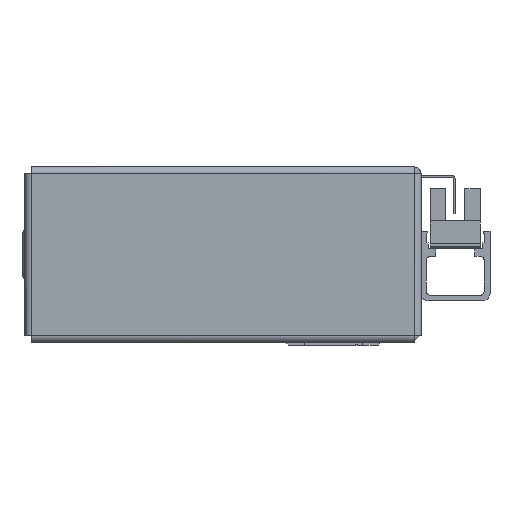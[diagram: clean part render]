
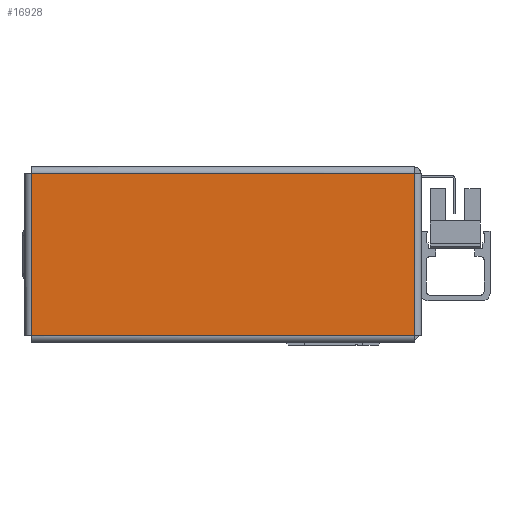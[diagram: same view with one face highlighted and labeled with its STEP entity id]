
A CAD part, left-side view. The second image highlights one B-rep face of the part: STEP entity #16928.
In plain terms, the highlighted planar face has unit normal (-1, 0, 0) as drawn and (0, 0, -1) by its records, which use the part's own axes.
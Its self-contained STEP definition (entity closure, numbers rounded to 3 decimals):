
#86 = CARTESIAN_POINT ( 'NONE',  ( 49.513, -21.013, -1. ) ) ;
#2857 = CARTESIAN_POINT ( 'NONE',  ( 49.513, 21.013, -1. ) ) ;
#5151 = FACE_OUTER_BOUND ( 'NONE', #14780, .T. ) ;
#5561 = CARTESIAN_POINT ( 'NONE',  ( 0., 0., -1. ) ) ;
#8421 = DIRECTION ( 'NONE',  ( 1., 0., 0. ) ) ;
#9399 = CARTESIAN_POINT ( 'NONE',  ( -49.513, 21.013, -1. ) ) ;
#10828 = CARTESIAN_POINT ( 'NONE',  ( -49.543, 21.013, -1. ) ) ;
#11316 = DIRECTION ( 'NONE',  ( -1., 0., 0. ) ) ;
#13633 = DIRECTION ( 'NONE',  ( 0., -1., 0. ) ) ;
#14780 = EDGE_LOOP ( 'NONE', ( #20950, #21734, #22530, #22891 ) ) ;
#16284 = AXIS2_PLACEMENT_3D ( 'NONE', #5561, #24614, #8421 ) ;
#16862 = CARTESIAN_POINT ( 'NONE',  ( 49.543, -21.013, -1. ) ) ;
#16928 = ADVANCED_FACE ( 'NONE', ( #5151 ), #31803, .F. ) ;
#18187 = VERTEX_POINT ( 'NONE', #86 ) ;
#18194 = VERTEX_POINT ( 'NONE', #2857 ) ;
#19086 = VERTEX_POINT ( 'NONE', #9399 ) ;
#19107 = CARTESIAN_POINT ( 'NONE',  ( 49.513, 21.043, -1. ) ) ;
#19455 = VERTEX_POINT ( 'NONE', #25359 ) ;
#20425 = EDGE_CURVE ( 'NONE', #19455, #19086, #31675, .T. ) ;
#20470 = EDGE_CURVE ( 'NONE', #19086, #18194, #31026, .T. ) ;
#20473 = EDGE_CURVE ( 'NONE', #18194, #18187, #30609, .T. ) ;
#20573 = EDGE_CURVE ( 'NONE', #18187, #19455, #30935, .T. ) ;
#20950 = ORIENTED_EDGE ( 'NONE', *, *, #20425, .T. ) ;
#21734 = ORIENTED_EDGE ( 'NONE', *, *, #20470, .T. ) ;
#21775 = DIRECTION ( 'NONE',  ( 1., 0., 0. ) ) ;
#22530 = ORIENTED_EDGE ( 'NONE', *, *, #20473, .T. ) ;
#22891 = ORIENTED_EDGE ( 'NONE', *, *, #20573, .T. ) ;
#24140 = DIRECTION ( 'NONE',  ( 0., 1., 0. ) ) ;
#24614 = DIRECTION ( 'NONE',  ( 0., 0., 1. ) ) ;
#25359 = CARTESIAN_POINT ( 'NONE',  ( -49.513, -21.013, -1. ) ) ;
#29141 = VECTOR ( 'NONE', #11316, 1000. ) ;
#30509 = VECTOR ( 'NONE', #21775, 1000. ) ;
#30609 = LINE ( 'NONE', #19107, #30769 ) ;
#30769 = VECTOR ( 'NONE', #13633, 1000. ) ;
#30935 = LINE ( 'NONE', #16862, #29141 ) ;
#31026 = LINE ( 'NONE', #10828, #30509 ) ;
#31436 = VECTOR ( 'NONE', #24140, 1000. ) ;
#31675 = LINE ( 'NONE', #33815, #31436 ) ;
#31803 = PLANE ( 'NONE',  #16284 ) ;
#33815 = CARTESIAN_POINT ( 'NONE',  ( -49.513, -21.043, -1. ) ) ;
